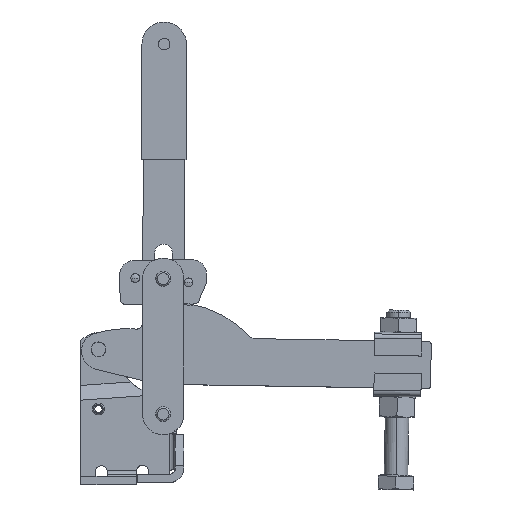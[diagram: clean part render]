
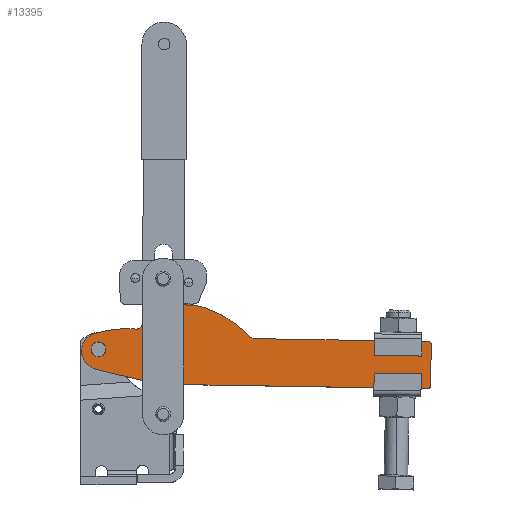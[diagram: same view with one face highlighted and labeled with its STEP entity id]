
A CAD part, top view. The second image highlights one B-rep face of the part: STEP entity #13395.
In plain terms, the highlighted planar face has unit normal (0, 0, 1).
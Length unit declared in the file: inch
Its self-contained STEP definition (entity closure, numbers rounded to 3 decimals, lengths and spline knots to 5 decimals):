
#12621=CARTESIAN_POINT('',(0.281,-0.61312,0.1793));
#12622=VERTEX_POINT('',#12621);
#12638=CARTESIAN_POINT('',(0.595,-0.61312,0.1793));
#12639=VERTEX_POINT('',#12638);
#12646=CARTESIAN_POINT('',(0.438,-0.61312,0.1793));
#12647=DIRECTION('',(0.0,0.0,-1.0));
#12648=DIRECTION('',(-1.0,0.0,0.0));
#12649=AXIS2_PLACEMENT_3D('',#12646,#12647,#12648);
#12650=CIRCLE('',#12649,0.157);
#12651=EDGE_CURVE('',#12622,#12639,#12650,.T.);
#12663=CARTESIAN_POINT('',(1.656,-0.61312,0.1793));
#12664=VERTEX_POINT('',#12663);
#12680=CARTESIAN_POINT('',(1.97,-0.61312,0.1793));
#12681=VERTEX_POINT('',#12680);
#12688=CARTESIAN_POINT('',(1.813,-0.61312,0.1793));
#12689=DIRECTION('',(0.0,0.0,-1.0));
#12690=DIRECTION('',(-1.0,0.0,0.0));
#12691=AXIS2_PLACEMENT_3D('',#12688,#12689,#12690);
#12692=CIRCLE('',#12691,0.157);
#12693=EDGE_CURVE('',#12664,#12681,#12692,.T.);
#12703=CARTESIAN_POINT('',(1.51287,0.34161,0.1793));
#12704=VERTEX_POINT('',#12703);
#12713=CARTESIAN_POINT('',(1.5724,0.37056,0.1793));
#12714=VERTEX_POINT('',#12713);
#12715=CARTESIAN_POINT('',(1.59535,0.24769,0.1793));
#12716=DIRECTION('',(0.0,0.0,-1.));
#12717=DIRECTION('',(-0.66,0.751,0.0));
#12718=AXIS2_PLACEMENT_3D('',#12715,#12716,#12717);
#12719=CIRCLE('',#12718,0.125);
#12720=EDGE_CURVE('',#12704,#12714,#12719,.T.);
#12747=CARTESIAN_POINT('',(7.48184,-0.34927,0.1793));
#12748=VERTEX_POINT('',#12747);
#12764=CARTESIAN_POINT('',(7.438,-0.33112,0.1793));
#12765=VERTEX_POINT('',#12764);
#12772=CARTESIAN_POINT('',(7.438,-0.39312,0.1793));
#12773=DIRECTION('',(0.0,0.0,-1.0));
#12774=DIRECTION('',(0.707,0.707,0.0));
#12775=AXIS2_PLACEMENT_3D('',#12772,#12773,#12774);
#12776=CIRCLE('',#12775,0.062);
#12777=EDGE_CURVE('',#12765,#12748,#12776,.T.);
#12789=CARTESIAN_POINT('',(7.48184,-1.31296,0.1793));
#12790=VERTEX_POINT('',#12789);
#12806=CARTESIAN_POINT('',(7.5,-1.26912,0.1793));
#12807=VERTEX_POINT('',#12806);
#12814=CARTESIAN_POINT('',(7.438,-1.26912,0.1793));
#12815=DIRECTION('',(0.0,0.0,-1.0));
#12816=DIRECTION('',(0.707,-0.707,0.0));
#12817=AXIS2_PLACEMENT_3D('',#12814,#12815,#12816);
#12818=CIRCLE('',#12817,0.062);
#12819=EDGE_CURVE('',#12807,#12790,#12818,.T.);
#12830=CARTESIAN_POINT('',(7.438,-1.33112,0.1793));
#12831=VERTEX_POINT('',#12830);
#12832=CARTESIAN_POINT('',(7.438,-1.26912,0.1793));
#12833=DIRECTION('',(0.0,0.0,-1.0));
#12834=DIRECTION('',(0.707,-0.707,0.0));
#12835=AXIS2_PLACEMENT_3D('',#12832,#12833,#12834);
#12836=CIRCLE('',#12835,0.062);
#12837=EDGE_CURVE('',#12790,#12831,#12836,.T.);
#12871=CARTESIAN_POINT('',(7.5,-0.39312,0.1793));
#12872=VERTEX_POINT('',#12871);
#12879=CARTESIAN_POINT('',(7.5,-0.39312,0.1793));
#12880=DIRECTION('',(0.0,-1.0,0.0));
#12881=VECTOR('',#12880,0.876);
#12882=LINE('',#12879,#12881);
#12883=EDGE_CURVE('',#12872,#12807,#12882,.T.);
#13033=CARTESIAN_POINT('',(7.438,-0.39312,0.1793));
#13034=DIRECTION('',(0.0,0.0,-1.0));
#13035=DIRECTION('',(0.707,0.707,0.0));
#13036=AXIS2_PLACEMENT_3D('',#13033,#13034,#13035);
#13037=CIRCLE('',#13036,0.062);
#13038=EDGE_CURVE('',#12748,#12872,#13037,.T.);
#13052=CARTESIAN_POINT('',(3.77307,-0.33112,0.1793));
#13053=VERTEX_POINT('',#13052);
#13060=CARTESIAN_POINT('',(7.438,-0.33112,0.1793));
#13061=DIRECTION('',(-1.0,0.0,0.0));
#13062=VECTOR('',#13061,3.66493);
#13063=LINE('',#13060,#13062);
#13064=EDGE_CURVE('',#12765,#13053,#13063,.T.);
#13076=CARTESIAN_POINT('',(1.47647,0.28631,0.1793));
#13077=VERTEX_POINT('',#13076);
#13084=CARTESIAN_POINT('',(1.59535,0.24769,0.1793));
#13085=DIRECTION('',(0.0,0.0,-1.));
#13086=DIRECTION('',(-0.66,0.751,0.0));
#13087=AXIS2_PLACEMENT_3D('',#13084,#13085,#13086);
#13088=CIRCLE('',#13087,0.125);
#13089=EDGE_CURVE('',#13077,#12704,#13088,.T.);
#13100=CARTESIAN_POINT('',(3.64604,-0.28161,0.1793));
#13101=VERTEX_POINT('',#13100);
#13102=CARTESIAN_POINT('',(1.997,-1.90212,0.1793));
#13103=DIRECTION('',(0.0,0.0,1.0));
#13104=DIRECTION('',(-0.713,-0.701,0.0));
#13105=AXIS2_PLACEMENT_3D('',#13102,#13103,#13104);
#13106=CIRCLE('',#13105,2.312);
#13107=EDGE_CURVE('',#13101,#12714,#13106,.T.);
#13125=CARTESIAN_POINT('',(0.33925,-0.28215,0.1793));
#13126=VERTEX_POINT('',#13125);
#13133=CARTESIAN_POINT('',(1.23017,-0.16787,0.1793));
#13134=VERTEX_POINT('',#13133);
#13135=CARTESIAN_POINT('',(1.08142,-2.53821,0.1793));
#13136=DIRECTION('',(0.0,0.0,1.));
#13137=DIRECTION('',(-0.063,-0.998,0.0));
#13138=AXIS2_PLACEMENT_3D('',#13135,#13136,#13137);
#13139=CIRCLE('',#13138,2.375);
#13140=EDGE_CURVE('',#13134,#13126,#13139,.T.);
#13158=CARTESIAN_POINT('',(1.35688,-0.08174,0.1793));
#13159=VERTEX_POINT('',#13158);
#13160=CARTESIAN_POINT('',(1.238,-0.04312,0.1793));
#13161=DIRECTION('',(0.0,0.0,-1.0));
#13162=DIRECTION('',(-0.063,-0.998,0.0));
#13163=AXIS2_PLACEMENT_3D('',#13160,#13161,#13162);
#13164=CIRCLE('',#13163,0.125);
#13165=EDGE_CURVE('',#13159,#13134,#13164,.T.);
#13184=CARTESIAN_POINT('',(1.47647,0.28631,0.1793));
#13185=DIRECTION('',(-0.309,-0.951,0.0));
#13186=VECTOR('',#13185,0.387);
#13187=LINE('',#13184,#13186);
#13188=EDGE_CURVE('',#13077,#13159,#13187,.T.);
#13200=CARTESIAN_POINT('',(3.77105,-0.33736,0.1793));
#13201=VERTEX_POINT('',#13200);
#13202=CARTESIAN_POINT('',(3.77941,-0.15054,0.1793));
#13203=DIRECTION('',(0.0,0.0,-1.0));
#13204=DIRECTION('',(-0.713,-0.701,0.0));
#13205=AXIS2_PLACEMENT_3D('',#13202,#13203,#13204);
#13206=CIRCLE('',#13205,0.187);
#13207=EDGE_CURVE('',#13201,#13101,#13206,.T.);
#13225=CARTESIAN_POINT('',(3.77307,-0.33112,0.1793));
#13226=DIRECTION('',(-0.309,-0.951,0.0));
#13227=VECTOR('',#13226,0.00656);
#13228=LINE('',#13225,#13227);
#13229=EDGE_CURVE('',#13053,#13201,#13228,.T.);
#13241=CARTESIAN_POINT('',(1.71156,-1.33112,0.1793));
#13242=VERTEX_POINT('',#13241);
#13249=CARTESIAN_POINT('',(0.39613,-1.03949,0.1793));
#13250=VERTEX_POINT('',#13249);
#13251=CARTESIAN_POINT('',(0.39613,-1.03949,0.1793));
#13252=DIRECTION('',(0.976,-0.216,0.0));
#13253=VECTOR('',#13252,1.34737);
#13254=LINE('',#13251,#13253);
#13255=EDGE_CURVE('',#13250,#13242,#13254,.T.);
#13273=CARTESIAN_POINT('',(0.078,-0.64312,0.1793));
#13274=VERTEX_POINT('',#13273);
#13275=CARTESIAN_POINT('',(0.484,-0.64312,0.1793));
#13276=DIRECTION('',(0.0,0.0,1.0));
#13277=DIRECTION('',(1.0,0.0,0.0));
#13278=AXIS2_PLACEMENT_3D('',#13275,#13276,#13277);
#13279=CIRCLE('',#13278,0.406);
#13280=EDGE_CURVE('',#13274,#13250,#13279,.T.);
#13298=CARTESIAN_POINT('',(0.458,-0.64312,0.1793));
#13299=DIRECTION('',(0.0,0.0,1.0));
#13300=DIRECTION('',(0.312,-0.95,0.0));
#13301=AXIS2_PLACEMENT_3D('',#13298,#13299,#13300);
#13302=CIRCLE('',#13301,0.38);
#13303=EDGE_CURVE('',#13126,#13274,#13302,.T.);
#13315=CARTESIAN_POINT('',(1.813,-0.61312,0.1793));
#13316=DIRECTION('',(0.0,0.0,-1.0));
#13317=DIRECTION('',(-1.0,0.0,0.0));
#13318=AXIS2_PLACEMENT_3D('',#13315,#13316,#13317);
#13319=CIRCLE('',#13318,0.157);
#13320=EDGE_CURVE('',#12681,#12664,#13319,.T.);
#13333=CARTESIAN_POINT('',(0.438,-0.61312,0.1793));
#13334=DIRECTION('',(0.0,0.0,-1.0));
#13335=DIRECTION('',(-1.0,0.0,0.0));
#13336=AXIS2_PLACEMENT_3D('',#13333,#13334,#13335);
#13337=CIRCLE('',#13336,0.157);
#13338=EDGE_CURVE('',#12639,#12622,#13337,.T.);
#13351=CARTESIAN_POINT('',(7.438,-1.33112,0.1793));
#13352=DIRECTION('',(-1.0,0.0,0.0));
#13353=VECTOR('',#13352,5.72644);
#13354=LINE('',#13351,#13353);
#13355=EDGE_CURVE('',#12831,#13242,#13354,.T.);
#13362=CARTESIAN_POINT('',(3.75,-0.33112,0.1793));
#13363=DIRECTION('',(0.0,0.0,1.0));
#13364=DIRECTION('',(1.0,0.0,0.0));
#13365=AXIS2_PLACEMENT_3D('',#13362,#13363,#13364);
#13366=PLANE('',#13365);
#13367=ORIENTED_EDGE('',*,*,#12819,.F.);
#13368=ORIENTED_EDGE('',*,*,#12883,.F.);
#13369=ORIENTED_EDGE('',*,*,#13038,.F.);
#13370=ORIENTED_EDGE('',*,*,#12777,.F.);
#13371=ORIENTED_EDGE('',*,*,#13064,.T.);
#13372=ORIENTED_EDGE('',*,*,#13229,.T.);
#13373=ORIENTED_EDGE('',*,*,#13207,.T.);
#13374=ORIENTED_EDGE('',*,*,#13107,.T.);
#13375=ORIENTED_EDGE('',*,*,#12720,.F.);
#13376=ORIENTED_EDGE('',*,*,#13089,.F.);
#13377=ORIENTED_EDGE('',*,*,#13188,.T.);
#13378=ORIENTED_EDGE('',*,*,#13165,.T.);
#13379=ORIENTED_EDGE('',*,*,#13140,.T.);
#13380=ORIENTED_EDGE('',*,*,#13303,.T.);
#13381=ORIENTED_EDGE('',*,*,#13280,.T.);
#13382=ORIENTED_EDGE('',*,*,#13255,.T.);
#13383=ORIENTED_EDGE('',*,*,#13355,.F.);
#13384=ORIENTED_EDGE('',*,*,#12837,.F.);
#13385=EDGE_LOOP('',(#13367,#13368,#13369,#13370,#13371,#13372,#13373,#13374,#13375,#13376,#13377,#13378,#13379,#13380,#13381,#13382,#13383,#13384));
#13386=FACE_OUTER_BOUND('',#13385,.T.);
#13387=ORIENTED_EDGE('',*,*,#13320,.T.);
#13388=ORIENTED_EDGE('',*,*,#12693,.T.);
#13389=EDGE_LOOP('',(#13387,#13388));
#13390=FACE_BOUND('',#13389,.T.);
#13391=ORIENTED_EDGE('',*,*,#13338,.T.);
#13392=ORIENTED_EDGE('',*,*,#12651,.T.);
#13393=EDGE_LOOP('',(#13391,#13392));
#13394=FACE_BOUND('',#13393,.T.);
#13395=ADVANCED_FACE('',(#13386,#13390,#13394),#13366,.T.);
